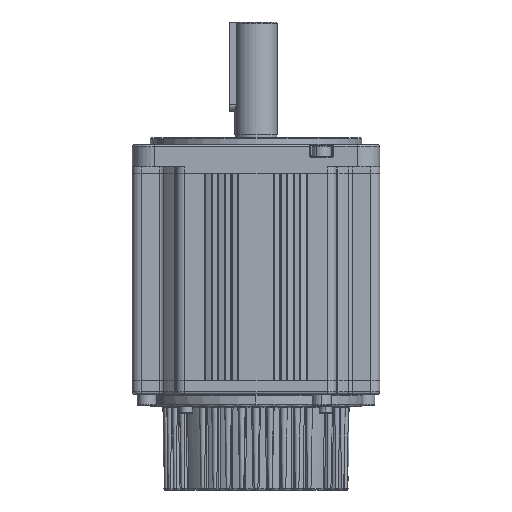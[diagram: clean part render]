
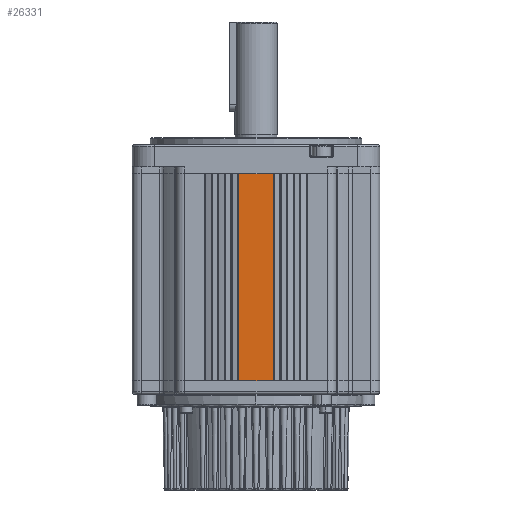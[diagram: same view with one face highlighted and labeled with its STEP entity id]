
A CAD part, front view. The second image highlights one B-rep face of the part: STEP entity #26331.
In plain terms, the highlighted planar face has unit normal (0, -1, 0) as drawn and (1, 0, 0) by its records, which use the part's own axes.
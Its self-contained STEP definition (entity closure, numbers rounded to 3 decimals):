
#2487 = VECTOR ( 'NONE', #35978, 1000. ) ;
#3449 = DIRECTION ( 'NONE',  ( 0., 0., 1. ) ) ;
#5414 = CARTESIAN_POINT ( 'NONE',  ( 55.5, -7.7, 93. ) ) ;
#5427 = DIRECTION ( 'NONE',  ( 0., 1., 0. ) ) ;
#7618 = AXIS2_PLACEMENT_3D ( 'NONE', #37556, #51142, #3449 ) ;
#8561 = VERTEX_POINT ( 'NONE', #48378 ) ;
#13428 = EDGE_CURVE ( 'NONE', #8561, #55404, #45167, .T. ) ;
#18829 = LINE ( 'NONE', #40273, #80284 ) ;
#21752 = VERTEX_POINT ( 'NONE', #87281 ) ;
#23753 = CARTESIAN_POINT ( 'NONE',  ( 55.5, 7.7, 93. ) ) ;
#26331 = ADVANCED_FACE ( 'NONE', ( #70032 ), #44199, .F. ) ;
#31356 = CARTESIAN_POINT ( 'NONE',  ( 55.5, 7.7, 0. ) ) ;
#32052 = EDGE_CURVE ( 'NONE', #39340, #21752, #73680, .T. ) ;
#35978 = DIRECTION ( 'NONE',  ( 0., 1., 0. ) ) ;
#37556 = CARTESIAN_POINT ( 'NONE',  ( 55.5, -8., 93. ) ) ;
#39340 = VERTEX_POINT ( 'NONE', #5414 ) ;
#40273 = CARTESIAN_POINT ( 'NONE',  ( 55.5, -7.7, 93. ) ) ;
#40572 = DIRECTION ( 'NONE',  ( 0., 0., -1. ) ) ;
#44199 = PLANE ( 'NONE',  #7618 ) ;
#44907 = ORIENTED_EDGE ( 'NONE', *, *, #32052, .F. ) ;
#45167 = LINE ( 'NONE', #74106, #50532 ) ;
#48378 = CARTESIAN_POINT ( 'NONE',  ( 55.5, -7.7, 0. ) ) ;
#49904 = VECTOR ( 'NONE', #72227, 1000. ) ;
#50532 = VECTOR ( 'NONE', #5427, 1000. ) ;
#51142 = DIRECTION ( 'NONE',  ( -1., 0., 0. ) ) ;
#54274 = LINE ( 'NONE', #23753, #49904 ) ;
#55404 = VERTEX_POINT ( 'NONE', #31356 ) ;
#57520 = EDGE_CURVE ( 'NONE', #39340, #8561, #18829, .T. ) ;
#59401 = EDGE_CURVE ( 'NONE', #55404, #21752, #54274, .T. ) ;
#62536 = CARTESIAN_POINT ( 'NONE',  ( 55.5, -8., 93. ) ) ;
#70032 = FACE_OUTER_BOUND ( 'NONE', #77968, .T. ) ;
#72227 = DIRECTION ( 'NONE',  ( 0., 0., 1. ) ) ;
#73680 = LINE ( 'NONE', #62536, #2487 ) ;
#74106 = CARTESIAN_POINT ( 'NONE',  ( 55.5, -8., 0. ) ) ;
#77968 = EDGE_LOOP ( 'NONE', ( #44907, #85902, #81111, #82732 ) ) ;
#80284 = VECTOR ( 'NONE', #40572, 1000. ) ;
#81111 = ORIENTED_EDGE ( 'NONE', *, *, #13428, .T. ) ;
#82732 = ORIENTED_EDGE ( 'NONE', *, *, #59401, .T. ) ;
#85902 = ORIENTED_EDGE ( 'NONE', *, *, #57520, .T. ) ;
#87281 = CARTESIAN_POINT ( 'NONE',  ( 55.5, 7.7, 93. ) ) ;
